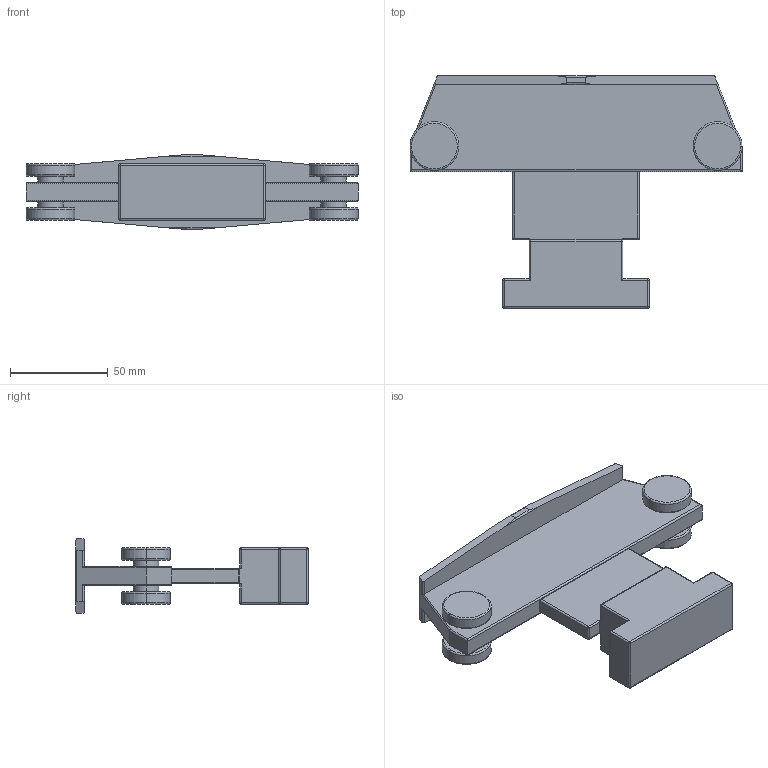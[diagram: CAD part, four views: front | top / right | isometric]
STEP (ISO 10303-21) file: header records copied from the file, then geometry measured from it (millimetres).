
FILE_DESCRIPTION (( 'STEP AP203' ), '1' );
FILE_NAME ('900.508.040.STEP', '2018-03-09T13:10:46', ( '' ), ( '' ), 'SwSTEP 2.0', 'SolidWorks 2016', '' );
FILE_SCHEMA (( 'CONFIG_CONTROL_DESIGN' ));
Length unit declared in the file: millimetre
Products named in the file (1): 900.508.040
Bounding box: 170 x 119 x 38 mm (x, y, z)
Volume: 185523.4 mm3; surface area: 45986.2 mm2
Topology: 1 solids, 1 shells, 143 faces, 336 edges, 188 vertices
Faces by surface type: cylinder 70, plane 41, torus 16, sphere 16
Entity records: 3991 total; most frequent: CARTESIAN_POINT 748, DIRECTION 704, ORIENTED_EDGE 640, EDGE_CURVE 320, AXIS2_PLACEMENT_3D 272, VERTEX_POINT 188, LINE 160, VECTOR 160
